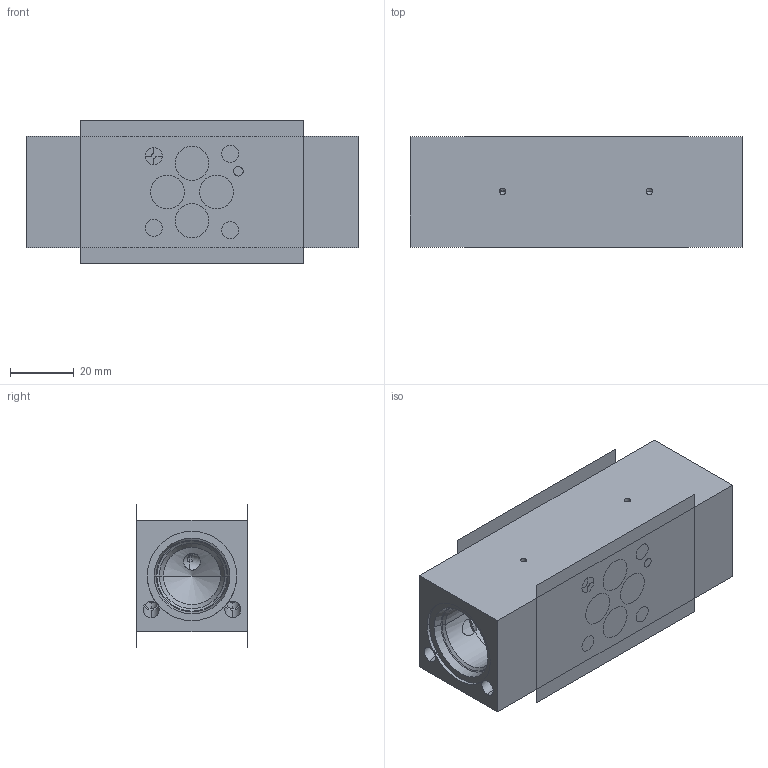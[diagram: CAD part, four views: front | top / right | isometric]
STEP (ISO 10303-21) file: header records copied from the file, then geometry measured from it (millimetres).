
FILE_DESCRIPTION((''),'2;1');
FILE_NAME('1000189718','2023-10-12T',('l.soukupova'),(''),'PRO/ENGINEER BY PARAMETRIC TECHNOLOGY CORPORATION, 2015440','PRO/ENGINEER BY PARAMETRIC TECHNOLOGY CORPORATION, 2015440','');
FILE_SCHEMA(('AUTOMOTIVE_DESIGN { 1 0 10303 214 1 1 1 1 }'));
Length unit declared in the file: millimetre
Products named in the file (1): 1000189718
Bounding box: 104 x 34.6 x 45 mm (x, y, z)
Volume: 94154.5 mm3; surface area: 36218.9 mm2
Topology: 1 solids, 9 shells, 172 faces, 632 edges, 571 vertices
Faces by surface type: cylinder 96, cone 56, plane 20
Entity records: 12283 total; most frequent: CARTESIAN_POINT 4125, DIRECTION 1056, ORIENTED_EDGE 888, PRESENTATION_STYLE_ASSIGNMENT 764, STYLED_ITEM 691, CURVE_STYLE 684, EDGE_CURVE 460, AXIS2_PLACEMENT_3D 386
